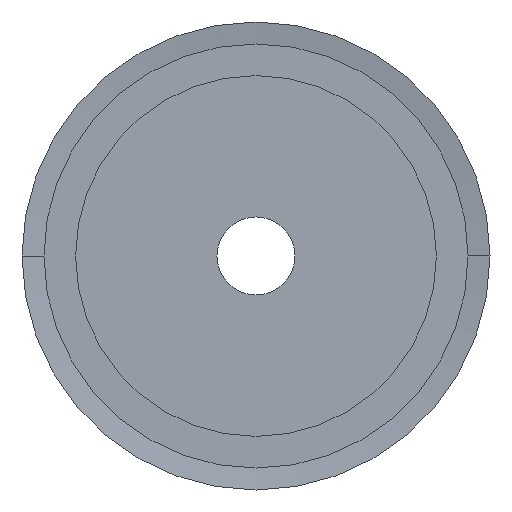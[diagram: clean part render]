
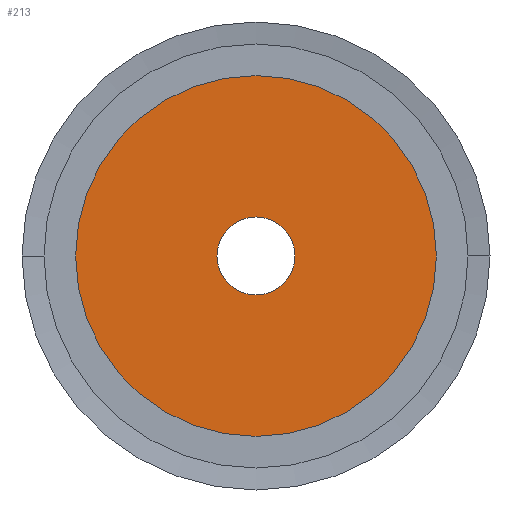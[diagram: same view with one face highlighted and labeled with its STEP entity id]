
A CAD part, left-side view. The second image highlights one B-rep face of the part: STEP entity #213.
In plain terms, the highlighted planar face has unit normal (-1, 0, 0).
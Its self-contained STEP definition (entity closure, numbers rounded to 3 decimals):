
#213 = ADVANCED_FACE( '', ( #497, #498 ), #499, .T. );
#497 = FACE_BOUND( '', #782, .T. );
#498 = FACE_OUTER_BOUND( '', #783, .T. );
#499 = PLANE( '', #784 );
#782 = EDGE_LOOP( '', ( #1971, #1972 ) );
#783 = EDGE_LOOP( '', ( #1973, #1974 ) );
#784 = AXIS2_PLACEMENT_3D( '', #1975, #1976, #1977 );
#1971 = ORIENTED_EDGE( '', *, *, #2360, .F. );
#1972 = ORIENTED_EDGE( '', *, *, #1993, .F. );
#1973 = ORIENTED_EDGE( '', *, *, #1981, .T. );
#1974 = ORIENTED_EDGE( '', *, *, #2365, .T. );
#1975 = CARTESIAN_POINT( '', ( 0., 11.25, 0. ) );
#1976 = DIRECTION( '', ( -1., 0., 0. ) );
#1977 = DIRECTION( '', ( 0., 1., 0. ) );
#1981 = EDGE_CURVE( '', #2367, #2371, #2373, .T. );
#1993 = EDGE_CURVE( '', #2395, #2391, #2397, .T. );
#2360 = EDGE_CURVE( '', #2391, #2395, #3004, .T. );
#2365 = EDGE_CURVE( '', #2371, #2367, #3009, .T. );
#2367 = VERTEX_POINT( '', #3011 );
#2371 = VERTEX_POINT( '', #3016 );
#2373 = CIRCLE( '', #3019, 18.5 );
#2391 = VERTEX_POINT( '', #3041 );
#2395 = VERTEX_POINT( '', #3046 );
#2397 = CIRCLE( '', #3049, 4. );
#3004 = CIRCLE( '', #3864, 4. );
#3009 = CIRCLE( '', #3869, 18.5 );
#3011 = CARTESIAN_POINT( '', ( 0., 18.5, 0. ) );
#3016 = CARTESIAN_POINT( '', ( 0., -18.5, 0. ) );
#3019 = AXIS2_PLACEMENT_3D( '', #3875, #3876, #3877 );
#3041 = CARTESIAN_POINT( '', ( 0., 4., 0. ) );
#3046 = CARTESIAN_POINT( '', ( 0., -4., 0. ) );
#3049 = AXIS2_PLACEMENT_3D( '', #3899, #3900, #3901 );
#3864 = AXIS2_PLACEMENT_3D( '', #4584, #4585, #4586 );
#3869 = AXIS2_PLACEMENT_3D( '', #4599, #4600, #4601 );
#3875 = CARTESIAN_POINT( '', ( 0., 0., 0. ) );
#3876 = DIRECTION( '', ( -1., 0., 0. ) );
#3877 = DIRECTION( '', ( 0., 1., 0. ) );
#3899 = CARTESIAN_POINT( '', ( 0., 0., 0. ) );
#3900 = DIRECTION( '', ( -1., 0., 0. ) );
#3901 = DIRECTION( '', ( 0., 1., 0. ) );
#4584 = CARTESIAN_POINT( '', ( 0., 0., 0. ) );
#4585 = DIRECTION( '', ( -1., 0., 0. ) );
#4586 = DIRECTION( '', ( 0., 1., 0. ) );
#4599 = CARTESIAN_POINT( '', ( 0., 0., 0. ) );
#4600 = DIRECTION( '', ( -1., 0., 0. ) );
#4601 = DIRECTION( '', ( 0., 1., 0. ) );
